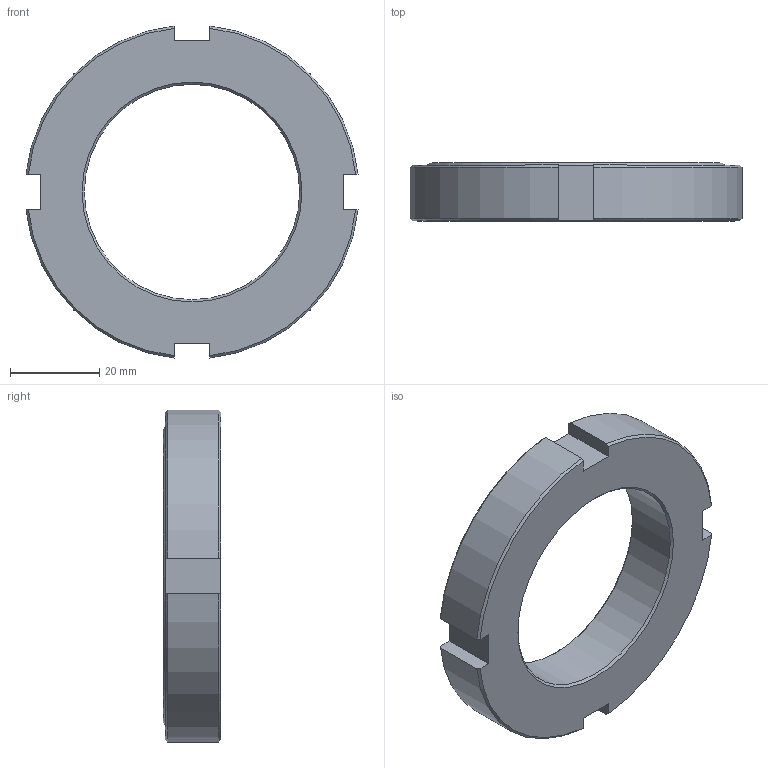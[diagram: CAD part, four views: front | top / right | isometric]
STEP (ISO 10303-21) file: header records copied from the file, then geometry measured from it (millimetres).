
FILE_DESCRIPTION(/* description */ (''),/* implementation_level */ '2;1');
FILE_NAME(/* name */ 'C:\Users\Jefferson\Desktop\Biblioteca Pro Nitro 2024\Flanges\PNB-24-XXX\PNB-24-M50.stp',/* time_stamp */ '2024-01-29T14:44:32-03:00',/* author */ ('Jefferson'),/* organization */ (''),/* preprocessor_version */ 'ST-DEVELOPER v18.1',/* originating_system */ 'Autodesk Inventor 2021',/* authorisation */ '');
FILE_SCHEMA (('AUTOMOTIVE_DESIGN { 1 0 10303 214 3 1 1 }'));
Length unit declared in the file: millimetre
Products named in the file (1): PNB-24-M50
Bounding box: 74.57 x 13 x 74.57 mm (x, y, z)
Volume: 31602.2 mm3; surface area: 10037.3 mm2
Topology: 1 solids, 1 shells, 180 faces, 485 edges, 323 vertices
Faces by surface type: plane 106, bspline 58, cone 11, cylinder 5
Full cylindrical faces by diameter (mm): 48.376 x1
Entity records: 5921 total; most frequent: CARTESIAN_POINT 1775, ORIENTED_EDGE 970, DIRECTION 622, EDGE_CURVE 485, LINE 330, VECTOR 330, VERTEX_POINT 323, EDGE_LOOP 198
